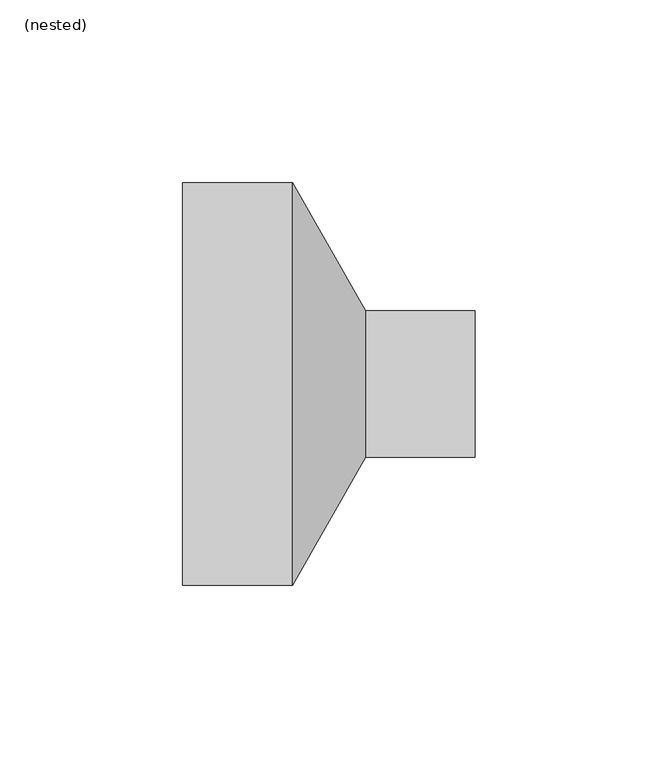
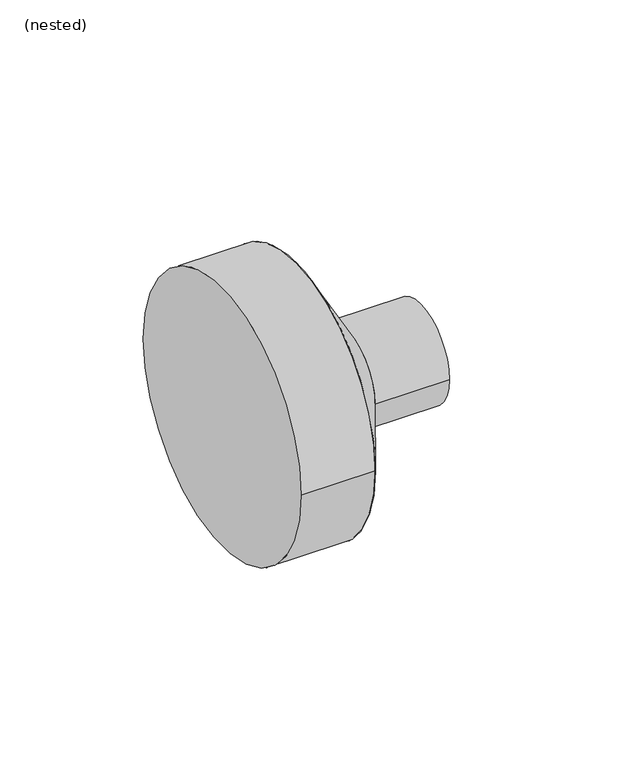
"""IFC4 building model written with IfcOpenShell, lengths in millimetres: pipe fitting geometry, NLRS_52_PIF_UN_PE verloop centrisch, kort_SH_geb : (nested)."""

import ifcopenshell
import ifcopenshell.guid

model = None  # the IFC model being written
_history = None  # IfcOwnerHistory: only IFC2X3 demands one
_inside = {}  # id of a spatial element -> (the spatial element, [elements in it])
_under = {}  # id of a project, library or spatial element -> (it, [spatial elements below it])
_declared = {}  # id of a project -> (the project, [libraries it declares])
_typed = {}  # id of a type object -> (the type object, [elements of that type])
_made_of = {}  # id of a material, layer set ... -> (it, [elements and type objects made of it])


def new_model(schema):
    """Start an empty IFC model of exactly this schema.

    Asked for "IFC4X3", IfcOpenShell would pick the latest addendum, in which some entities
    have other attributes; the version numbers below select the first issue.
    IFC2X3 requires an IfcOwnerHistory on every rooted entity: one is made here for all.
    """
    global model, _history
    if schema == "IFC4X3":
        model = ifcopenshell.file(schema_version=(4, 3, 0, 0))
    else:
        model = ifcopenshell.file(schema=schema)
    _inside.clear()
    _under.clear()
    _declared.clear()
    _typed.clear()
    _made_of.clear()
    _history = None
    if model.schema == "IFC2X3":
        org = make("IfcOrganization", Name="unknown")
        user = make(
            "IfcPersonAndOrganization",
            ThePerson=make("IfcPerson", FamilyName="unknown"),
            TheOrganization=org,
        )
        app = make(
            "IfcApplication",
            ApplicationDeveloper=org,
            Version="unknown",
            ApplicationFullName="unknown",
            ApplicationIdentifier="unknown",
        )
        _history = make(
            "IfcOwnerHistory",
            OwningUser=user,
            OwningApplication=app,
            ChangeAction="ADDED",
            CreationDate=0,
        )
    return model


def make(cls, **values):
    """One entity of the class cls with the attributes given. An attribute that is None is left unset."""
    return model.create_entity(
        cls, **{name: value for name, value in values.items() if value is not None}
    )


def rooted(cls, **values):
    """An entity with a GlobalId (a new one), such as an element, a storey or a relation."""
    return make(cls, GlobalId=ifcopenshell.guid.new(), OwnerHistory=_history, **values)


def si_unit(unit_type, name, prefix=None):
    """IfcSIUnit, for example si_unit("LENGTHUNIT", "METRE", prefix="MILLI")."""
    return make("IfcSIUnit", UnitType=unit_type, Prefix=prefix, Name=name)


def assignment(units):
    """IfcUnitAssignment: the units of a project."""
    return None if units is None else make("IfcUnitAssignment", Units=units)


def point(xyz):
    """IfcCartesianPoint."""
    return None if xyz is None else make("IfcCartesianPoint", Coordinates=xyz)


def direction(xyz):
    """IfcDirection."""
    return None if xyz is None else make("IfcDirection", DirectionRatios=xyz)


def frame(location, z_axis=None, x_axis=None):
    """IfcAxis2Placement3D, a coordinate frame: its origin and axes. An axis left out is left unset."""
    return make(
        "IfcAxis2Placement3D",
        Location=point(location),
        Axis=direction(z_axis),
        RefDirection=direction(x_axis),
    )


def frame_2d(location, x_axis=None):
    """IfcAxis2Placement2D, a coordinate frame in the plane: its origin and x axis."""
    return make(
        "IfcAxis2Placement2D", Location=point(location), RefDirection=direction(x_axis)
    )


def origin():
    """The frame at (0, 0, 0) with its axes left unset."""
    return frame((0.0, 0.0, 0.0))


def origin_2d():
    """The frame at (0, 0) in the plane with its x axis left unset."""
    return frame_2d((0.0, 0.0))


def place(relative_to, where):
    """IfcLocalPlacement: puts the frame where relative to a parent placement (None: the world)."""
    return make(
        "IfcLocalPlacement", PlacementRelTo=relative_to, RelativePlacement=where
    )


def context(
    kind, dimensions, precision=None, world=None, true_north=None, identifier=None
):
    """IfcGeometricRepresentationContext, for example the 3D "Model" context."""
    return make(
        "IfcGeometricRepresentationContext",
        ContextIdentifier=identifier,
        ContextType=kind,
        CoordinateSpaceDimension=dimensions,
        Precision=precision,
        WorldCoordinateSystem=world,
        TrueNorth=true_north,
    )


def project(units=None, contexts=None):
    """IfcProject with its units and contexts."""
    return rooted(
        "IfcProject",
        Name="project",
        RepresentationContexts=contexts,
        UnitsInContext=assignment(units),
    )


def spatial(cls, under=None, at=None, **own):
    """A site, building, storey or space (cls), placed at a placement, below another one or the project."""
    s = rooted(cls, ObjectPlacement=at, **own)
    if under is not None:
        _under.setdefault(under.id(), (under, []))[1].append(s)
    return s


def polyline(points):
    """IfcPolyline through the points."""
    return make("IfcPolyline", Points=[point(p) for p in points])


def circle_curve(where, radius):
    """IfcCircle in the frame where."""
    return make("IfcCircle", Position=where, Radius=radius)


def trimmed(basis, trim1, trim2, sense, master):
    """IfcTrimmedCurve: the piece of a basis curve between two trims."""
    return make(
        "IfcTrimmedCurve",
        BasisCurve=basis,
        Trim1=trim1,
        Trim2=trim2,
        SenseAgreement=sense,
        MasterRepresentation=master,
    )


def segment(curve, same_sense, transition):
    """IfcCompositeCurveSegment."""
    return make(
        "IfcCompositeCurveSegment",
        Transition=transition,
        SameSense=same_sense,
        ParentCurve=curve,
    )


def composite_curve(segments, self_intersect=None):
    """IfcCompositeCurve: segments joined end to end."""
    return make("IfcCompositeCurve", Segments=segments, SelfIntersect=self_intersect)


def outline(outer, holes=None, kind="AREA"):
    """IfcArbitraryClosedProfileDef: a profile drawn as a closed curve; with holes, ...WithVoids."""
    if holes is None:
        return make("IfcArbitraryClosedProfileDef", ProfileType=kind, OuterCurve=outer)
    return make(
        "IfcArbitraryProfileDefWithVoids",
        ProfileType=kind,
        OuterCurve=outer,
        InnerCurves=holes,
    )


def extrude(swept, where, along, depth):
    """IfcExtrudedAreaSolid: the profile swept, set in the frame where, extruded along a direction by depth."""
    return make(
        "IfcExtrudedAreaSolid",
        SweptArea=swept,
        Position=where,
        ExtrudedDirection=direction(along),
        Depth=depth,
    )


def shape(context_of_items, identifier, shape_type, items):
    """IfcShapeRepresentation: the items that make up one representation, for example the "Body"."""
    return make(
        "IfcShapeRepresentation",
        ContextOfItems=context_of_items,
        RepresentationIdentifier=identifier,
        RepresentationType=shape_type,
        Items=items,
    )


def source(mapping_origin, context_of_items, identifier, shape_type, items):
    """IfcRepresentationMap: a shape defined once, which mapped items show again and again."""
    return make(
        "IfcRepresentationMap",
        MappingOrigin=mapping_origin,
        MappedRepresentation=shape(context_of_items, identifier, shape_type, items),
    )


def transform(
    local_origin,
    x_axis=None,
    y_axis=None,
    z_axis=None,
    scale=None,
    scale2=None,
    scale3=None,
    uniform=True,
):
    """IfcCartesianTransformationOperator3D, or its non-uniform kind. x_axis, y_axis, z_axis: its Axis1, 2, 3."""
    if uniform:
        return make(
            "IfcCartesianTransformationOperator3D",
            Axis1=direction(x_axis),
            Axis2=direction(y_axis),
            LocalOrigin=point(local_origin),
            Scale=scale,
            Axis3=direction(z_axis),
        )
    return make(
        "IfcCartesianTransformationOperator3DnonUniform",
        Axis1=direction(x_axis),
        Axis2=direction(y_axis),
        LocalOrigin=point(local_origin),
        Scale=scale,
        Axis3=direction(z_axis),
        Scale2=scale2,
        Scale3=scale3,
    )


def mapped(mapping_source, mapping_target):
    """IfcMappedItem: shows the shape of a source again, moved by a transform."""
    return make(
        "IfcMappedItem", MappingSource=mapping_source, MappingTarget=mapping_target
    )


def made_of(thing, what):
    """Note that an element or type object is made of a material, layer set ...; save() writes the relation."""
    if what is not None:
        _made_of.setdefault(what.id(), (what, []))[1].append(thing)
    return thing


def element(
    cls,
    number,
    at=None,
    inside=None,
    cuts=None,
    type_object=None,
    material=None,
    context=None,
    identifier="Body",
    shape_type=None,
    held_by="IfcProductDefinitionShape",
    body=None,
    shapes=None,
    **own,
):
    """One element of the class cls, such as IfcWall. Its Tag is "e" and its number.

    at: its placement. inside: the storey or other place that contains it. cuts: it is an
    opening in that element (IfcRelVoidsElement). A single representation is given by context,
    identifier, shape_type and body (its items); several are given by shapes. held_by: the class
    of the entity that holds the representations. save() writes the other relations.
    """
    e = rooted(cls, Tag="e%d" % number, ObjectPlacement=at, **own)
    if body is not None:
        shapes = [shape(context, identifier, shape_type, body)]
    if shapes is not None:
        e.Representation = make(held_by, Representations=shapes)
    if inside is not None:
        _inside.setdefault(inside.id(), (inside, []))[1].append(e)
    if cuts is not None:
        rooted(
            "IfcRelVoidsElement", RelatingBuildingElement=cuts, RelatedOpeningElement=e
        )
    if type_object is not None:
        _typed.setdefault(type_object.id(), (type_object, []))[1].append(e)
    return made_of(e, material)


def aggregate(whole, parts):
    """IfcRelAggregates: a whole, such as a stair, and the parts it consists of."""
    return rooted("IfcRelAggregates", RelatingObject=whole, RelatedObjects=parts)


def save(model, path):
    """Write the relations noted so far, then the file.

    IfcRelAggregates (storeys below a building ...), IfcRelContainedInSpatialStructure (elements
    in a storey), IfcRelDefinesByType, IfcRelAssociatesMaterial and IfcRelDeclares: one each for
    every whole, place, type object, material and project.
    """
    for whole, parts in _under.values():
        aggregate(whole, parts)
    for where, things in _inside.values():
        rooted(
            "IfcRelContainedInSpatialStructure",
            RelatedElements=things,
            RelatingStructure=where,
        )
    for kind, things in _typed.values():
        rooted("IfcRelDefinesByType", RelatedObjects=things, RelatingType=kind)
    for what, things in _made_of.values():
        rooted("IfcRelAssociatesMaterial", RelatedObjects=things, RelatingMaterial=what)
    for by, libraries in _declared.values():
        rooted("IfcRelDeclares", RelatingContext=by, RelatedDefinitions=libraries)
    model.write(path)


def plane_surface(at):
    """IfcPlane: the flat surface through the origin of the frame at, square to its z axis."""
    return make("IfcPlane", Position=at)


def revolved_surface(curve, axis_point, axis_direction):
    """IfcSurfaceOfRevolution: the curve turned about the line through axis_point along axis_direction."""
    return make(
        "IfcSurfaceOfRevolution",
        SweptCurve=make("IfcArbitraryOpenProfileDef", ProfileType="CURVE", Curve=curve),
        AxisPosition=make("IfcAxis1Placement", Location=point(axis_point), Axis=direction(axis_direction)),
    )


def advanced_brep(points, edges, surfaces, faces):
    """IfcAdvancedBrep: a solid bounded by faces that lie on surfaces and meet in shared edges.

    An edge is (start, end): straight between two places in points (the first is 0);
    or (start, end, curve); or (start, end, curve, False) where it runs against its curve.
    A face is (place in surfaces, loops), or (place, loops, False) where it looks against
    its surface's normal. A loop lists edges by number (the first is 1), with a minus sign
    where the edge is run from its end to its start. The first loop is the outer one.
    """
    corners = [point(p) for p in points]
    vertices = [make("IfcVertexPoint", VertexGeometry=c) for c in corners]
    made = []
    for start, end, *more in edges:
        made.append(
            make(
                "IfcEdgeCurve",
                EdgeStart=vertices[start],
                EdgeEnd=vertices[end],
                EdgeGeometry=more[0] if more else make("IfcPolyline", Points=[corners[start], corners[end]]),
                SameSense=more[1] if len(more) > 1 else True,
            )
        )
    hull = []
    for where, loops, *sense in faces:
        bounds = []
        for j, loop in enumerate(loops):
            ring = [make("IfcOrientedEdge", EdgeElement=made[abs(k) - 1], Orientation=k > 0) for k in loop]
            bounds.append(
                make(
                    "IfcFaceOuterBound" if j == 0 else "IfcFaceBound",
                    Bound=make("IfcEdgeLoop", EdgeList=ring),
                    Orientation=True,
                )
            )
        hull.append(make("IfcAdvancedFace", Bounds=bounds, FaceSurface=surfaces[where], SameSense=sense[0] if sense else True))
    return make("IfcAdvancedBrep", Outer=make("IfcClosedShell", CfsFaces=hull))


def nested_0e2d0414(model_context):
    return source(origin(), model_context, "Body", "SolidModel", [
        advanced_brep(
        [(10.0, -20.0, 0.0), (10.0, 20.0, 0.0), (-10.0, -55.0, 0.0), (-10.0, 55.0, 0.0)],
        [
            (0, 1, circle_curve(frame((10.0, 0.0, 0.0), z_axis=(1.0, 0.0, 0.0), x_axis=(0.0, -1.0, 0.0)), 20.0)),
            (1, 0, circle_curve(frame((10.0, 0.0, 0.0), z_axis=(1.0, 0.0, 0.0), x_axis=(0.0, 1.0, 0.0)), 20.0)),
            (2, 3, circle_curve(frame((-10.0, 0.0, 0.0), z_axis=(-1.0, 0.0, 0.0), x_axis=(0.0, 1.0, 0.0)), 55.0)),
            (3, 2, circle_curve(frame((-10.0, 0.0, 0.0), z_axis=(-1.0, 0.0, 0.0), x_axis=(0.0, -1.0, 0.0)), 55.0)),
            (3, 1),
            (0, 2),
        ],
        [
            plane_surface(frame((10.0, 0.0, 0.0), z_axis=(1.0, 0.0, 0.0), x_axis=(0.0, 0.0, -1.0))),
            plane_surface(frame((-10.0, 0.0, 0.0), z_axis=(-1.0, 0.0, 0.0), x_axis=(0.0, 0.0, -1.0))),
            revolved_surface(polyline([(10.0, -19.999999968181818, 0.0), (-10.0, -55.0, 0.0)]), (21.4285714, 0.0, 0.0), (-1.0, 0.0, 0.0)),
            revolved_surface(polyline([(10.0, 19.999999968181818, 0.0), (-10.0, 55.0, 0.0)]), (21.4285714, 0.0, 0.0), (-1.0, 0.0, 0.0)),
        ],
        [
            (0, [[1, 2]]),
            (1, [[3, 4]]),
            (2, [[-4, 5, -1, 6]]),
            (3, [[-3, -6, -2, -5]]),
        ],
    ),
        extrude(outline(composite_curve([segment(trimmed(circle_curve(origin_2d(), 20.0), [point((-20.0, 0.0))], [point((20.0, 0.0))], False, "CARTESIAN"), True, "CONTINUOUS"), segment(trimmed(circle_curve(origin_2d(), 20.0), [point((20.0, 0.0))], [point((-20.0, 0.0))], False, "CARTESIAN"), True, "CONTINUOUS")], self_intersect=False)), frame((10.0, 0.0, 0.0), z_axis=(1.0, 0.0, 0.0), x_axis=(0.0, 1.0, 0.0)), (0.0, 0.0, 1.0), 30.0),
        extrude(outline(composite_curve([segment(trimmed(circle_curve(origin_2d(), 55.0), [point((-55.0, 0.0))], [point((55.0, 0.0))], False, "CARTESIAN"), True, "CONTINUOUS"), segment(trimmed(circle_curve(origin_2d(), 55.0), [point((55.0, 0.0))], [point((-55.0, 0.0))], False, "CARTESIAN"), True, "CONTINUOUS")], self_intersect=False)), frame((-40.0, 0.0, 0.0), z_axis=(1.0, 0.0, 0.0), x_axis=(0.0, 1.0, 0.0)), (0.0, 0.0, 1.0), 30.0),
    ])


if __name__ == "__main__":
    model = new_model("IFC4")
    model_context = context("Model", 3, world=origin())
    ifc_project = project(units=[si_unit("LENGTHUNIT", "METRE", prefix="MILLI")], contexts=[model_context])
    site = spatial("IfcSite", under=ifc_project)
    building = spatial("IfcBuilding", under=site)
    placement = place(None, origin())
    nested_shape = nested_0e2d0414(model_context)
    element("IfcPipeFitting", 1, ObjectType="NLRS_52_PIF_UN_PE verloop centrisch, kort_SH_geb : (nested)", at=placement, inside=building, context=model_context, shape_type="MappedRepresentation", body=[
        mapped(nested_shape, transform((0.0, 0.0, 0.0), x_axis=(1.0, 0.0, 0.0), y_axis=(0.0, 1.0, 0.0), z_axis=(0.0, 0.0, 1.0))),
    ])
    save(model, "model.ifc")
